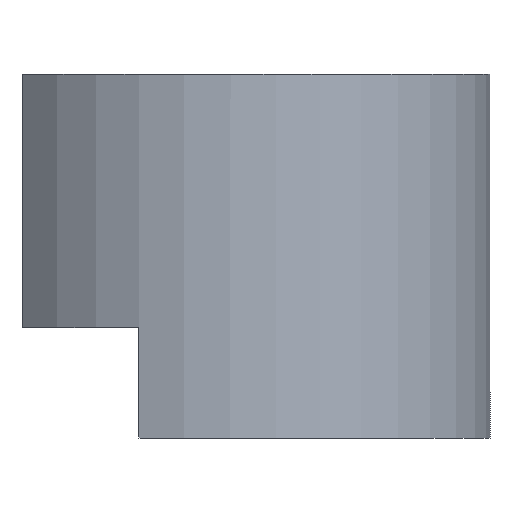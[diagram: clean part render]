
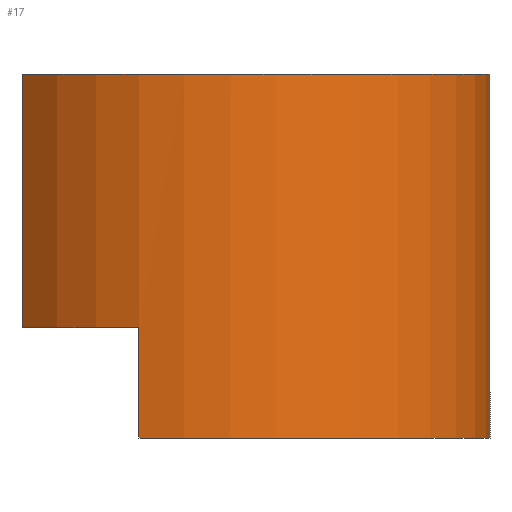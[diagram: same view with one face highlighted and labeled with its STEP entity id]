
A CAD part, left-side view. The second image highlights one B-rep face of the part: STEP entity #17.
In plain terms, the highlighted cylindrical face has radius 4.2 mm (diameter 8.4 mm), a partial arc.
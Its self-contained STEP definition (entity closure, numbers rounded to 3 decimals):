
#17 = ADVANCED_FACE('',(#18),#32,.T.);
#18 = FACE_BOUND('',#19,.T.);
#19 = EDGE_LOOP('',(#20,#53,#82,#108,#141,#169,#202,#225));
#20 = ORIENTED_EDGE('',*,*,#21,.T.);
#21 = EDGE_CURVE('',#22,#24,#26,.T.);
#22 = VERTEX_POINT('',#23);
#23 = CARTESIAN_POINT('',(-4.025,-26.3,4.6));
#24 = VERTEX_POINT('',#25);
#25 = CARTESIAN_POINT('',(-4.025,-26.3,2.9));
#26 = SURFACE_CURVE('',#27,(#31,#42),.PCURVE_S1.);
#27 = LINE('',#28,#29);
#28 = CARTESIAN_POINT('',(-4.025,-26.3,2.9));
#29 = VECTOR('',#30,1.);
#30 = DIRECTION('',(-0.,-0.,-1.));
#31 = PCURVE('',#32,#37);
#32 = CYLINDRICAL_SURFACE('',#33,4.2);
#33 = AXIS2_PLACEMENT_3D('',#34,#35,#36);
#34 = CARTESIAN_POINT('',(0.,-27.5,2.9));
#35 = DIRECTION('',(-0.,-0.,-1.));
#36 = DIRECTION('',(1.,0.,0.));
#37 = DEFINITIONAL_REPRESENTATION('',(#38),#41);
#38 = B_SPLINE_CURVE_WITH_KNOTS('',1,(#39,#40),.UNSPECIFIED.,.F.,.F.,(2,
    2),(-3.16,0.),.PIECEWISE_BEZIER_KNOTS.);
#39 = CARTESIAN_POINT('',(9.715,-3.16));
#40 = CARTESIAN_POINT('',(9.715,0.));
#41 = ( GEOMETRIC_REPRESENTATION_CONTEXT(2) 
PARAMETRIC_REPRESENTATION_CONTEXT() REPRESENTATION_CONTEXT('2D SPACE',''
  ) );
#42 = PCURVE('',#43,#48);
#43 = PLANE('',#44);
#44 = AXIS2_PLACEMENT_3D('',#45,#46,#47);
#45 = CARTESIAN_POINT('',(-10.,-26.3,-10.));
#46 = DIRECTION('',(0.,1.,0.));
#47 = DIRECTION('',(0.,0.,1.));
#48 = DEFINITIONAL_REPRESENTATION('',(#49),#52);
#49 = B_SPLINE_CURVE_WITH_KNOTS('',1,(#50,#51),.UNSPECIFIED.,.F.,.F.,(2,
    2),(-3.16,0.),.PIECEWISE_BEZIER_KNOTS.);
#50 = CARTESIAN_POINT('',(16.06,5.975));
#51 = CARTESIAN_POINT('',(12.9,5.975));
#52 = ( GEOMETRIC_REPRESENTATION_CONTEXT(2) 
PARAMETRIC_REPRESENTATION_CONTEXT() REPRESENTATION_CONTEXT('2D SPACE',''
  ) );
#53 = ORIENTED_EDGE('',*,*,#54,.T.);
#54 = EDGE_CURVE('',#24,#55,#57,.T.);
#55 = VERTEX_POINT('',#56);
#56 = CARTESIAN_POINT('',(4.025,-26.3,2.9));
#57 = SURFACE_CURVE('',#58,(#63,#70),.PCURVE_S1.);
#58 = CIRCLE('',#59,4.2);
#59 = AXIS2_PLACEMENT_3D('',#60,#61,#62);
#60 = CARTESIAN_POINT('',(0.,-27.5,2.9));
#61 = DIRECTION('',(0.,0.,1.));
#62 = DIRECTION('',(-0.7,0.714,0.));
#63 = PCURVE('',#32,#64);
#64 = DEFINITIONAL_REPRESENTATION('',(#65),#69);
#65 = LINE('',#66,#67);
#66 = CARTESIAN_POINT('',(10.22,0.));
#67 = VECTOR('',#68,1.);
#68 = DIRECTION('',(-1.,0.));
#69 = ( GEOMETRIC_REPRESENTATION_CONTEXT(2) 
PARAMETRIC_REPRESENTATION_CONTEXT() REPRESENTATION_CONTEXT('2D SPACE',''
  ) );
#70 = PCURVE('',#71,#76);
#71 = PLANE('',#72);
#72 = AXIS2_PLACEMENT_3D('',#73,#74,#75);
#73 = CARTESIAN_POINT('',(0.,-27.5,2.9));
#74 = DIRECTION('',(0.,0.,1.));
#75 = DIRECTION('',(1.,0.,-0.));
#76 = DEFINITIONAL_REPRESENTATION('',(#77),#81);
#77 = CIRCLE('',#78,4.2);
#78 = AXIS2_PLACEMENT_2D('',#79,#80);
#79 = CARTESIAN_POINT('',(0.,0.));
#80 = DIRECTION('',(-0.7,0.714));
#81 = ( GEOMETRIC_REPRESENTATION_CONTEXT(2) 
PARAMETRIC_REPRESENTATION_CONTEXT() REPRESENTATION_CONTEXT('2D SPACE',''
  ) );
#82 = ORIENTED_EDGE('',*,*,#83,.F.);
#83 = EDGE_CURVE('',#84,#55,#86,.T.);
#84 = VERTEX_POINT('',#85);
#85 = CARTESIAN_POINT('',(4.025,-26.3,4.6));
#86 = SURFACE_CURVE('',#87,(#91,#97),.PCURVE_S1.);
#87 = LINE('',#88,#89);
#88 = CARTESIAN_POINT('',(4.025,-26.3,2.9));
#89 = VECTOR('',#90,1.);
#90 = DIRECTION('',(-0.,-0.,-1.));
#91 = PCURVE('',#32,#92);
#92 = DEFINITIONAL_REPRESENTATION('',(#93),#96);
#93 = B_SPLINE_CURVE_WITH_KNOTS('',1,(#94,#95),.UNSPECIFIED.,.F.,.F.,(2,
    2),(-3.16,0.),.PIECEWISE_BEZIER_KNOTS.);
#94 = CARTESIAN_POINT('',(5.993,-3.16));
#95 = CARTESIAN_POINT('',(5.993,0.));
#96 = ( GEOMETRIC_REPRESENTATION_CONTEXT(2) 
PARAMETRIC_REPRESENTATION_CONTEXT() REPRESENTATION_CONTEXT('2D SPACE',''
  ) );
#97 = PCURVE('',#98,#103);
#98 = PLANE('',#99);
#99 = AXIS2_PLACEMENT_3D('',#100,#101,#102);
#100 = CARTESIAN_POINT('',(-10.,-26.3,-10.));
#101 = DIRECTION('',(0.,1.,0.));
#102 = DIRECTION('',(0.,0.,1.));
#103 = DEFINITIONAL_REPRESENTATION('',(#104),#107);
#104 = B_SPLINE_CURVE_WITH_KNOTS('',1,(#105,#106),.UNSPECIFIED.,.F.,.F.,
  (2,2),(-3.16,0.),.PIECEWISE_BEZIER_KNOTS.);
#105 = CARTESIAN_POINT('',(16.06,14.025));
#106 = CARTESIAN_POINT('',(12.9,14.025));
#107 = ( GEOMETRIC_REPRESENTATION_CONTEXT(2) 
PARAMETRIC_REPRESENTATION_CONTEXT() REPRESENTATION_CONTEXT('2D SPACE',''
  ) );
#108 = ORIENTED_EDGE('',*,*,#109,.F.);
#109 = EDGE_CURVE('',#110,#84,#112,.T.);
#110 = VERTEX_POINT('',#111);
#111 = CARTESIAN_POINT('',(2.939,-24.5,4.6));
#112 = SURFACE_CURVE('',#113,(#118,#125),.PCURVE_S1.);
#113 = CIRCLE('',#114,4.2);
#114 = AXIS2_PLACEMENT_3D('',#115,#116,#117);
#115 = CARTESIAN_POINT('',(0.,-27.5,4.6));
#116 = DIRECTION('',(0.,0.,-1.));
#117 = DIRECTION('',(1.,0.,0.));
#118 = PCURVE('',#32,#119);
#119 = DEFINITIONAL_REPRESENTATION('',(#120),#124);
#120 = LINE('',#121,#122);
#121 = CARTESIAN_POINT('',(0.,-1.7));
#122 = VECTOR('',#123,1.);
#123 = DIRECTION('',(1.,0.));
#124 = ( GEOMETRIC_REPRESENTATION_CONTEXT(2) 
PARAMETRIC_REPRESENTATION_CONTEXT() REPRESENTATION_CONTEXT('2D SPACE',''
  ) );
#125 = PCURVE('',#126,#131);
#126 = PLANE('',#127);
#127 = AXIS2_PLACEMENT_3D('',#128,#129,#130);
#128 = CARTESIAN_POINT('',(-10.,-26.3,4.6));
#129 = DIRECTION('',(0.,0.,1.));
#130 = DIRECTION('',(1.,0.,0.));
#131 = DEFINITIONAL_REPRESENTATION('',(#132),#140);
#132 = ( BOUNDED_CURVE() B_SPLINE_CURVE(2,(#133,#134,#135,#136,#137,#138
,#139),.UNSPECIFIED.,.T.,.F.) B_SPLINE_CURVE_WITH_KNOTS((1,2,2,2,2,1),(
    -2.094,0.,2.094,4.189,6.283,
8.378),.UNSPECIFIED.) CURVE() GEOMETRIC_REPRESENTATION_ITEM() 
RATIONAL_B_SPLINE_CURVE((1.,0.5,1.,0.5,1.,0.5,1.)) REPRESENTATION_ITEM(
  '') );
#133 = CARTESIAN_POINT('',(14.2,-1.2));
#134 = CARTESIAN_POINT('',(14.2,-8.475));
#135 = CARTESIAN_POINT('',(7.9,-4.837));
#136 = CARTESIAN_POINT('',(1.6,-1.2));
#137 = CARTESIAN_POINT('',(7.9,2.437));
#138 = CARTESIAN_POINT('',(14.2,6.075));
#139 = CARTESIAN_POINT('',(14.2,-1.2));
#140 = ( GEOMETRIC_REPRESENTATION_CONTEXT(2) 
PARAMETRIC_REPRESENTATION_CONTEXT() REPRESENTATION_CONTEXT('2D SPACE',''
  ) );
#141 = ORIENTED_EDGE('',*,*,#142,.T.);
#142 = EDGE_CURVE('',#110,#143,#145,.T.);
#143 = VERTEX_POINT('',#144);
#144 = CARTESIAN_POINT('',(2.939,-24.5,8.5));
#145 = SURFACE_CURVE('',#146,(#150,#157),.PCURVE_S1.);
#146 = LINE('',#147,#148);
#147 = CARTESIAN_POINT('',(2.939,-24.5,2.9));
#148 = VECTOR('',#149,1.);
#149 = DIRECTION('',(0.,0.,1.));
#150 = PCURVE('',#32,#151);
#151 = DEFINITIONAL_REPRESENTATION('',(#152),#156);
#152 = LINE('',#153,#154);
#153 = CARTESIAN_POINT('',(5.488,0.));
#154 = VECTOR('',#155,1.);
#155 = DIRECTION('',(-0.,-1.));
#156 = ( GEOMETRIC_REPRESENTATION_CONTEXT(2) 
PARAMETRIC_REPRESENTATION_CONTEXT() REPRESENTATION_CONTEXT('2D SPACE',''
  ) );
#157 = PCURVE('',#158,#163);
#158 = PLANE('',#159);
#159 = AXIS2_PLACEMENT_3D('',#160,#161,#162);
#160 = CARTESIAN_POINT('',(-10.,-24.5,-21.8));
#161 = DIRECTION('',(0.,1.,0.));
#162 = DIRECTION('',(0.,-0.,1.));
#163 = DEFINITIONAL_REPRESENTATION('',(#164),#168);
#164 = LINE('',#165,#166);
#165 = CARTESIAN_POINT('',(24.7,12.939));
#166 = VECTOR('',#167,1.);
#167 = DIRECTION('',(1.,0.));
#168 = ( GEOMETRIC_REPRESENTATION_CONTEXT(2) 
PARAMETRIC_REPRESENTATION_CONTEXT() REPRESENTATION_CONTEXT('2D SPACE',''
  ) );
#169 = ORIENTED_EDGE('',*,*,#170,.T.);
#170 = EDGE_CURVE('',#143,#171,#173,.T.);
#171 = VERTEX_POINT('',#172);
#172 = CARTESIAN_POINT('',(-2.939,-24.5,8.5));
#173 = SURFACE_CURVE('',#174,(#179,#186),.PCURVE_S1.);
#174 = CIRCLE('',#175,4.2);
#175 = AXIS2_PLACEMENT_3D('',#176,#177,#178);
#176 = CARTESIAN_POINT('',(0.,-27.5,8.5));
#177 = DIRECTION('',(0.,0.,-1.));
#178 = DIRECTION('',(1.,0.,0.));
#179 = PCURVE('',#32,#180);
#180 = DEFINITIONAL_REPRESENTATION('',(#181),#185);
#181 = LINE('',#182,#183);
#182 = CARTESIAN_POINT('',(0.,-5.6));
#183 = VECTOR('',#184,1.);
#184 = DIRECTION('',(1.,0.));
#185 = ( GEOMETRIC_REPRESENTATION_CONTEXT(2) 
PARAMETRIC_REPRESENTATION_CONTEXT() REPRESENTATION_CONTEXT('2D SPACE',''
  ) );
#186 = PCURVE('',#187,#192);
#187 = PLANE('',#188);
#188 = AXIS2_PLACEMENT_3D('',#189,#190,#191);
#189 = CARTESIAN_POINT('',(-10.,-40.,8.5));
#190 = DIRECTION('',(0.,0.,1.));
#191 = DIRECTION('',(1.,0.,0.));
#192 = DEFINITIONAL_REPRESENTATION('',(#193),#201);
#193 = ( BOUNDED_CURVE() B_SPLINE_CURVE(2,(#194,#195,#196,#197,#198,#199
,#200),.UNSPECIFIED.,.T.,.F.) B_SPLINE_CURVE_WITH_KNOTS((1,2,2,2,2,1),(
    -2.094,0.,2.094,4.189,6.283,
8.378),.UNSPECIFIED.) CURVE() GEOMETRIC_REPRESENTATION_ITEM() 
RATIONAL_B_SPLINE_CURVE((1.,0.5,1.,0.5,1.,0.5,1.)) REPRESENTATION_ITEM(
  '') );
#194 = CARTESIAN_POINT('',(14.2,12.5));
#195 = CARTESIAN_POINT('',(14.2,5.225));
#196 = CARTESIAN_POINT('',(7.9,8.863));
#197 = CARTESIAN_POINT('',(1.6,12.5));
#198 = CARTESIAN_POINT('',(7.9,16.137));
#199 = CARTESIAN_POINT('',(14.2,19.775));
#200 = CARTESIAN_POINT('',(14.2,12.5));
#201 = ( GEOMETRIC_REPRESENTATION_CONTEXT(2) 
PARAMETRIC_REPRESENTATION_CONTEXT() REPRESENTATION_CONTEXT('2D SPACE',''
  ) );
#202 = ORIENTED_EDGE('',*,*,#203,.T.);
#203 = EDGE_CURVE('',#171,#204,#206,.T.);
#204 = VERTEX_POINT('',#205);
#205 = CARTESIAN_POINT('',(-2.939,-24.5,4.6));
#206 = SURFACE_CURVE('',#207,(#211,#218),.PCURVE_S1.);
#207 = LINE('',#208,#209);
#208 = CARTESIAN_POINT('',(-2.939,-24.5,8.6));
#209 = VECTOR('',#210,1.);
#210 = DIRECTION('',(0.,0.,-1.));
#211 = PCURVE('',#32,#212);
#212 = DEFINITIONAL_REPRESENTATION('',(#213),#217);
#213 = LINE('',#214,#215);
#214 = CARTESIAN_POINT('',(10.22,-5.7));
#215 = VECTOR('',#216,1.);
#216 = DIRECTION('',(0.,1.));
#217 = ( GEOMETRIC_REPRESENTATION_CONTEXT(2) 
PARAMETRIC_REPRESENTATION_CONTEXT() REPRESENTATION_CONTEXT('2D SPACE',''
  ) );
#218 = PCURVE('',#158,#219);
#219 = DEFINITIONAL_REPRESENTATION('',(#220),#224);
#220 = LINE('',#221,#222);
#221 = CARTESIAN_POINT('',(30.4,7.061));
#222 = VECTOR('',#223,1.);
#223 = DIRECTION('',(-1.,0.));
#224 = ( GEOMETRIC_REPRESENTATION_CONTEXT(2) 
PARAMETRIC_REPRESENTATION_CONTEXT() REPRESENTATION_CONTEXT('2D SPACE',''
  ) );
#225 = ORIENTED_EDGE('',*,*,#226,.F.);
#226 = EDGE_CURVE('',#22,#204,#227,.T.);
#227 = SURFACE_CURVE('',#228,(#233,#240),.PCURVE_S1.);
#228 = CIRCLE('',#229,4.2);
#229 = AXIS2_PLACEMENT_3D('',#230,#231,#232);
#230 = CARTESIAN_POINT('',(0.,-27.5,4.6));
#231 = DIRECTION('',(0.,0.,-1.));
#232 = DIRECTION('',(1.,0.,0.));
#233 = PCURVE('',#32,#234);
#234 = DEFINITIONAL_REPRESENTATION('',(#235),#239);
#235 = LINE('',#236,#237);
#236 = CARTESIAN_POINT('',(6.283,-1.7));
#237 = VECTOR('',#238,1.);
#238 = DIRECTION('',(1.,0.));
#239 = ( GEOMETRIC_REPRESENTATION_CONTEXT(2) 
PARAMETRIC_REPRESENTATION_CONTEXT() REPRESENTATION_CONTEXT('2D SPACE',''
  ) );
#240 = PCURVE('',#126,#241);
#241 = DEFINITIONAL_REPRESENTATION('',(#242),#250);
#242 = ( BOUNDED_CURVE() B_SPLINE_CURVE(2,(#243,#244,#245,#246,#247,#248
,#249),.UNSPECIFIED.,.T.,.F.) B_SPLINE_CURVE_WITH_KNOTS((1,2,2,2,2,1),(
    -2.094,0.,2.094,4.189,6.283,
8.378),.UNSPECIFIED.) CURVE() GEOMETRIC_REPRESENTATION_ITEM() 
RATIONAL_B_SPLINE_CURVE((1.,0.5,1.,0.5,1.,0.5,1.)) REPRESENTATION_ITEM(
  '') );
#243 = CARTESIAN_POINT('',(14.2,-1.2));
#244 = CARTESIAN_POINT('',(14.2,-8.475));
#245 = CARTESIAN_POINT('',(7.9,-4.837));
#246 = CARTESIAN_POINT('',(1.6,-1.2));
#247 = CARTESIAN_POINT('',(7.9,2.437));
#248 = CARTESIAN_POINT('',(14.2,6.075));
#249 = CARTESIAN_POINT('',(14.2,-1.2));
#250 = ( GEOMETRIC_REPRESENTATION_CONTEXT(2) 
PARAMETRIC_REPRESENTATION_CONTEXT() REPRESENTATION_CONTEXT('2D SPACE',''
  ) );
